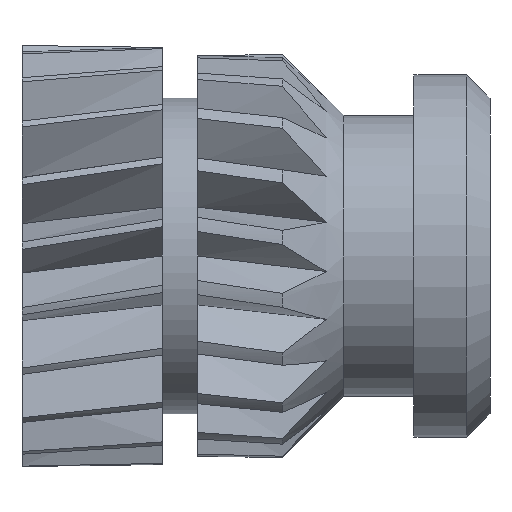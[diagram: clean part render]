
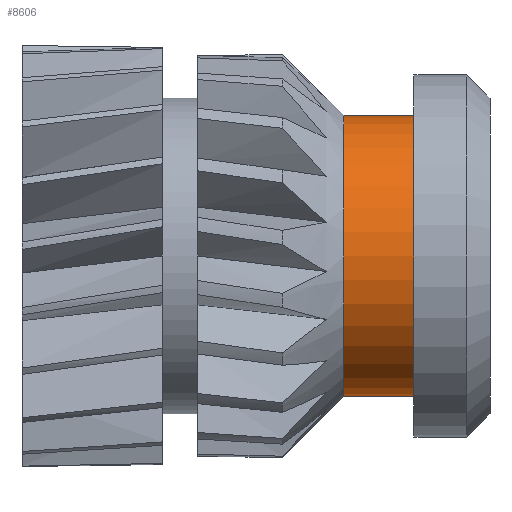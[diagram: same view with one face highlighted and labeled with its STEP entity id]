
A CAD part, front view. The second image highlights one B-rep face of the part: STEP entity #8606.
In plain terms, the highlighted cylindrical face has radius 1.2 mm (diameter 2.4 mm), a partial arc.
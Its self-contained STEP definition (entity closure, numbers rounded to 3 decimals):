
#1398 = EDGE_CURVE ( 'NONE', #11933, #5455, #2092, .T. ) ;
#1669 = CIRCLE ( 'NONE', #9976, 1.2 ) ;
#1794 = EDGE_CURVE ( 'NONE', #3309, #9527, #17411, .T. ) ;
#1869 = DIRECTION ( 'NONE',  ( 0., 0., -1. ) ) ;
#2092 = LINE ( 'NONE', #9329, #3356 ) ;
#3309 = VERTEX_POINT ( 'NONE', #11932 ) ;
#3356 = VECTOR ( 'NONE', #14024, 1000. ) ;
#4474 = CARTESIAN_POINT ( 'NONE',  ( -0.65, 0., 0. ) ) ;
#5455 = VERTEX_POINT ( 'NONE', #16896 ) ;
#5996 = CYLINDRICAL_SURFACE ( 'NONE', #13183, 1.2 ) ;
#6143 = DIRECTION ( 'NONE',  ( 1., 0., 0. ) ) ;
#6333 = DIRECTION ( 'NONE',  ( 0., 0., -1. ) ) ;
#7886 = DIRECTION ( 'NONE',  ( 1., 0., 0. ) ) ;
#8606 = ADVANCED_FACE ( 'NONE', ( #15581 ), #5996, .T. ) ;
#9329 = CARTESIAN_POINT ( 'NONE',  ( 4.475, 0., 1.2 ) ) ;
#9527 = VERTEX_POINT ( 'NONE', #17213 ) ;
#9842 = EDGE_CURVE ( 'NONE', #5455, #9527, #13141, .T. ) ;
#9853 = ORIENTED_EDGE ( 'NONE', *, *, #10786, .T. ) ;
#9972 = ORIENTED_EDGE ( 'NONE', *, *, #1794, .T. ) ;
#9976 = AXIS2_PLACEMENT_3D ( 'NONE', #12636, #6143, #6333 ) ;
#10478 = DIRECTION ( 'NONE',  ( 0., 0., -1. ) ) ;
#10674 = DIRECTION ( 'NONE',  ( 1., 0., 0. ) ) ;
#10786 = EDGE_CURVE ( 'NONE', #11933, #3309, #1669, .T. ) ;
#10956 = CARTESIAN_POINT ( 'NONE',  ( -1.25, 0., 1.2 ) ) ;
#11932 = CARTESIAN_POINT ( 'NONE',  ( -1.25, 0., -1.2 ) ) ;
#11933 = VERTEX_POINT ( 'NONE', #10956 ) ;
#12636 = CARTESIAN_POINT ( 'NONE',  ( -1.25, 0., 0. ) ) ;
#13141 = CIRCLE ( 'NONE', #16724, 1.2 ) ;
#13183 = AXIS2_PLACEMENT_3D ( 'NONE', #16995, #7886, #1869 ) ;
#13643 = ORIENTED_EDGE ( 'NONE', *, *, #9842, .F. ) ;
#14024 = DIRECTION ( 'NONE',  ( 1., 0., 0. ) ) ;
#14238 = VECTOR ( 'NONE', #14509, 1000. ) ;
#14383 = ORIENTED_EDGE ( 'NONE', *, *, #1398, .F. ) ;
#14483 = EDGE_LOOP ( 'NONE', ( #14383, #9853, #9972, #13643 ) ) ;
#14509 = DIRECTION ( 'NONE',  ( 1., 0., 0. ) ) ;
#15581 = FACE_OUTER_BOUND ( 'NONE', #14483, .T. ) ;
#16724 = AXIS2_PLACEMENT_3D ( 'NONE', #4474, #10674, #10478 ) ;
#16896 = CARTESIAN_POINT ( 'NONE',  ( -0.65, 0., 1.2 ) ) ;
#16995 = CARTESIAN_POINT ( 'NONE',  ( 4.475, 0., 0. ) ) ;
#17213 = CARTESIAN_POINT ( 'NONE',  ( -0.65, 0., -1.2 ) ) ;
#17411 = LINE ( 'NONE', #17611, #14238 ) ;
#17611 = CARTESIAN_POINT ( 'NONE',  ( 4.475, 0., -1.2 ) ) ;
